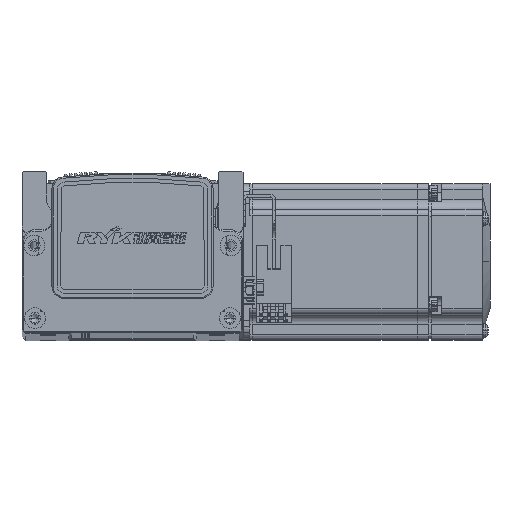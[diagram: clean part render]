
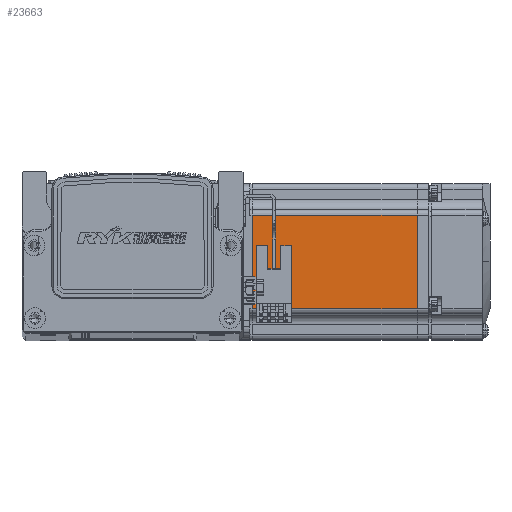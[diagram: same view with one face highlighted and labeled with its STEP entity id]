
A CAD part, top view. The second image highlights one B-rep face of the part: STEP entity #23663.
In plain terms, the highlighted planar face has unit normal (0, 0, 1) as drawn and (0, 0, -1) by its records, which use the part's own axes.
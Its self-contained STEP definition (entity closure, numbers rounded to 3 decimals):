
#995 = FACE_OUTER_BOUND ( 'NONE', #64731, .T. ) ;
#2918 = CARTESIAN_POINT ( 'NONE',  ( -7.75, 18., -30. ) ) ;
#2940 = CARTESIAN_POINT ( 'NONE',  ( -70.95, 18., -30. ) ) ;
#2944 = CARTESIAN_POINT ( 'NONE',  ( -7.75, -18., -30. ) ) ;
#2966 = CARTESIAN_POINT ( 'NONE',  ( -70.95, -18., -30. ) ) ;
#11613 = LINE ( 'NONE', #72060, #11616 ) ;
#11614 = LINE ( 'NONE', #72072, #11617 ) ;
#11616 = VECTOR ( 'NONE', #72058, 1000. ) ;
#11617 = VECTOR ( 'NONE', #72081, 1000. ) ;
#11629 = VECTOR ( 'NONE', #72170, 1000. ) ;
#11638 = LINE ( 'NONE', #72158, #11629 ) ;
#11764 = LINE ( 'NONE', #72332, #11792 ) ;
#11792 = VECTOR ( 'NONE', #72317, 1000. ) ;
#13454 = EDGE_CURVE ( 'NONE', #54674, #54635, #11613, .T. ) ;
#13457 = EDGE_CURVE ( 'NONE', #54603, #54616, #11614, .T. ) ;
#13496 = EDGE_CURVE ( 'NONE', #54635, #54603, #11638, .T. ) ;
#13567 = EDGE_CURVE ( 'NONE', #54616, #54674, #11764, .T. ) ;
#14897 = AXIS2_PLACEMENT_3D ( 'NONE', #43576, #43592, #43601 ) ;
#23663 = ADVANCED_FACE ( 'NONE', ( #995 ), #43580, .T. ) ;
#37041 = ORIENTED_EDGE ( 'NONE', *, *, #13496, .T. ) ;
#37051 = ORIENTED_EDGE ( 'NONE', *, *, #13457, .T. ) ;
#37087 = ORIENTED_EDGE ( 'NONE', *, *, #13454, .T. ) ;
#37123 = ORIENTED_EDGE ( 'NONE', *, *, #13567, .T. ) ;
#43576 = CARTESIAN_POINT ( 'NONE',  ( -6.5, 25., -30. ) ) ;
#43580 = PLANE ( 'NONE',  #14897 ) ;
#43592 = DIRECTION ( 'NONE',  ( 0., 0., -1. ) ) ;
#43601 = DIRECTION ( 'NONE',  ( -1., 0., 0. ) ) ;
#54603 = VERTEX_POINT ( 'NONE', #2944 ) ;
#54616 = VERTEX_POINT ( 'NONE', #2966 ) ;
#54635 = VERTEX_POINT ( 'NONE', #2918 ) ;
#54674 = VERTEX_POINT ( 'NONE', #2940 ) ;
#64731 = EDGE_LOOP ( 'NONE', ( #37041, #37051, #37123, #37087 ) ) ;
#72058 = DIRECTION ( 'NONE',  ( 1., 0., 0. ) ) ;
#72060 = CARTESIAN_POINT ( 'NONE',  ( -6.5, 18., -30. ) ) ;
#72072 = CARTESIAN_POINT ( 'NONE',  ( -6.5, -18., -30. ) ) ;
#72081 = DIRECTION ( 'NONE',  ( -1., 0., 0. ) ) ;
#72158 = CARTESIAN_POINT ( 'NONE',  ( -7.75, 25., -30. ) ) ;
#72170 = DIRECTION ( 'NONE',  ( 0., -1., 0. ) ) ;
#72317 = DIRECTION ( 'NONE',  ( 0., 1., 0. ) ) ;
#72332 = CARTESIAN_POINT ( 'NONE',  ( -70.95, 25., -30. ) ) ;
